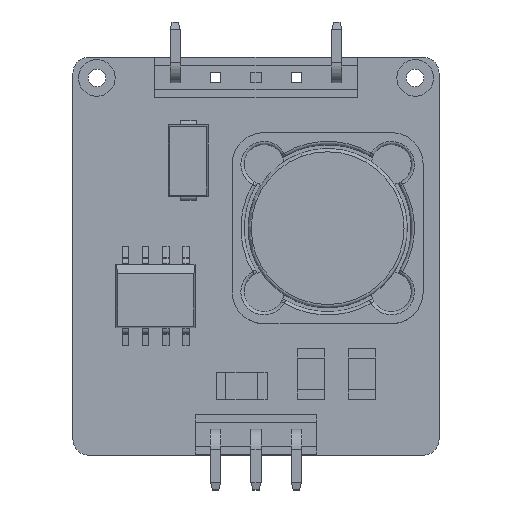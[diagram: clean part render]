
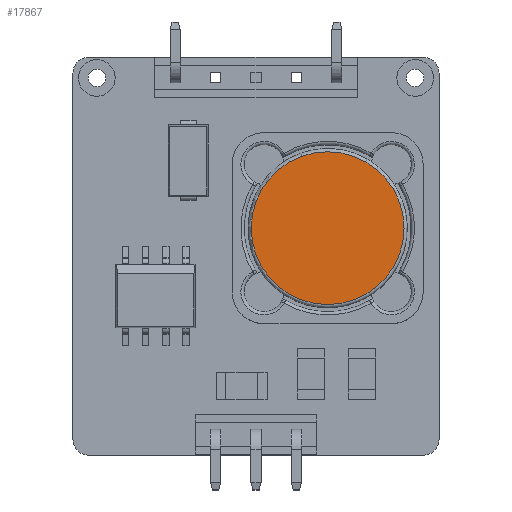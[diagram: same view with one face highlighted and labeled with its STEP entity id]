
A CAD part, top view. The second image highlights one B-rep face of the part: STEP entity #17867.
In plain terms, the highlighted planar face has unit normal (0, 0, 1).
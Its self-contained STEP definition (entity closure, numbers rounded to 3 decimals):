
#16939 = TOROIDAL_SURFACE('',#16940,4.8,0.2);
#16940 = AXIS2_PLACEMENT_3D('',#16941,#16942,#16943);
#16941 = CARTESIAN_POINT('',(4.5,1.75,5.8));
#16942 = DIRECTION('',(0.,0.,1.));
#16943 = DIRECTION('',(-1.,0.,0.));
#17069 = VERTEX_POINT('',#17070);
#17070 = CARTESIAN_POINT('',(4.5,6.55,6.));
#17138 = EDGE_CURVE('',#17069,#17069,#17139,.T.);
#17139 = SURFACE_CURVE('',#17140,(#17145,#17174),.PCURVE_S1.);
#17140 = CIRCLE('',#17141,4.8);
#17141 = AXIS2_PLACEMENT_3D('',#17142,#17143,#17144);
#17142 = CARTESIAN_POINT('',(4.5,1.75,6.));
#17143 = DIRECTION('',(0.,0.,-1.));
#17144 = DIRECTION('',(0.,-1.,0.));
#17145 = PCURVE('',#16939,#17146);
#17146 = DEFINITIONAL_REPRESENTATION('',(#17147),#17173);
#17147 = B_SPLINE_CURVE_WITH_KNOTS('',3,(#17148,#17149,#17150,#17151,
    #17152,#17153,#17154,#17155,#17156,#17157,#17158,#17159,#17160,
    #17161,#17162,#17163,#17164,#17165,#17166,#17167,#17168,#17169,
    #17170,#17171,#17172),.UNSPECIFIED.,.F.,.F.,(4,1,1,1,1,1,1,1,1,1,1,1
    ,1,1,1,1,1,1,1,1,1,1,4),(3.142,3.427,3.713
    ,3.998,4.284,4.57,4.855,
    5.141,5.426,5.712,5.998,
    6.283,6.569,6.854,7.14,
    7.426,7.711,7.997,8.282,
    8.568,8.854,9.139,9.425),
  .UNSPECIFIED.);
#17148 = CARTESIAN_POINT('',(4.712,1.571));
#17149 = CARTESIAN_POINT('',(4.617,1.571));
#17150 = CARTESIAN_POINT('',(4.427,1.571));
#17151 = CARTESIAN_POINT('',(4.141,1.571));
#17152 = CARTESIAN_POINT('',(3.856,1.571));
#17153 = CARTESIAN_POINT('',(3.57,1.571));
#17154 = CARTESIAN_POINT('',(3.284,1.571));
#17155 = CARTESIAN_POINT('',(2.999,1.571));
#17156 = CARTESIAN_POINT('',(2.713,1.571));
#17157 = CARTESIAN_POINT('',(2.428,1.571));
#17158 = CARTESIAN_POINT('',(2.142,1.571));
#17159 = CARTESIAN_POINT('',(1.856,1.571));
#17160 = CARTESIAN_POINT('',(1.571,1.571));
#17161 = CARTESIAN_POINT('',(1.285,1.571));
#17162 = CARTESIAN_POINT('',(1.,1.571));
#17163 = CARTESIAN_POINT('',(0.714,1.571));
#17164 = CARTESIAN_POINT('',(0.428,1.571));
#17165 = CARTESIAN_POINT('',(0.143,1.571));
#17166 = CARTESIAN_POINT('',(-0.143,1.571));
#17167 = CARTESIAN_POINT('',(-0.428,1.571));
#17168 = CARTESIAN_POINT('',(-0.714,1.571));
#17169 = CARTESIAN_POINT('',(-1.,1.571));
#17170 = CARTESIAN_POINT('',(-1.285,1.571));
#17171 = CARTESIAN_POINT('',(-1.476,1.571));
#17172 = CARTESIAN_POINT('',(-1.571,1.571));
#17173 = ( GEOMETRIC_REPRESENTATION_CONTEXT(2) 
PARAMETRIC_REPRESENTATION_CONTEXT() REPRESENTATION_CONTEXT('2D SPACE',''
  ) );
#17174 = PCURVE('',#17175,#17180);
#17175 = PLANE('',#17176);
#17176 = AXIS2_PLACEMENT_3D('',#17177,#17178,#17179);
#17177 = CARTESIAN_POINT('',(4.5,1.75,6.));
#17178 = DIRECTION('',(0.,0.,1.));
#17179 = DIRECTION('',(-1.,0.,0.));
#17180 = DEFINITIONAL_REPRESENTATION('',(#17181),#17189);
#17181 = ( BOUNDED_CURVE() B_SPLINE_CURVE(2,(#17182,#17183,#17184,#17185
    ,#17186,#17187,#17188),.UNSPECIFIED.,.F.,.F.) 
B_SPLINE_CURVE_WITH_KNOTS((1,2,2,2,2,1),(-2.094,0.,
    2.094,4.189,6.283,8.378),
.UNSPECIFIED.) CURVE() GEOMETRIC_REPRESENTATION_ITEM() 
RATIONAL_B_SPLINE_CURVE((1.,0.5,1.,0.5,1.,0.5,1.)) REPRESENTATION_ITEM(
  '') );
#17182 = CARTESIAN_POINT('',(0.,4.8));
#17183 = CARTESIAN_POINT('',(8.314,4.8));
#17184 = CARTESIAN_POINT('',(4.157,-2.4));
#17185 = CARTESIAN_POINT('',(0.,-9.6));
#17186 = CARTESIAN_POINT('',(-4.157,-2.4));
#17187 = CARTESIAN_POINT('',(-8.314,4.8));
#17188 = CARTESIAN_POINT('',(0.,4.8));
#17189 = ( GEOMETRIC_REPRESENTATION_CONTEXT(2) 
PARAMETRIC_REPRESENTATION_CONTEXT() REPRESENTATION_CONTEXT('2D SPACE',''
  ) );
#17867 = ADVANCED_FACE('',(#17868),#17175,.T.);
#17868 = FACE_BOUND('',#17869,.T.);
#17869 = EDGE_LOOP('',(#17870));
#17870 = ORIENTED_EDGE('',*,*,#17138,.F.);
